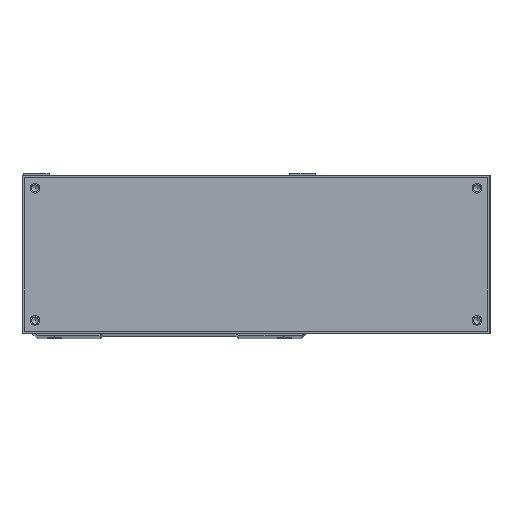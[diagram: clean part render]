
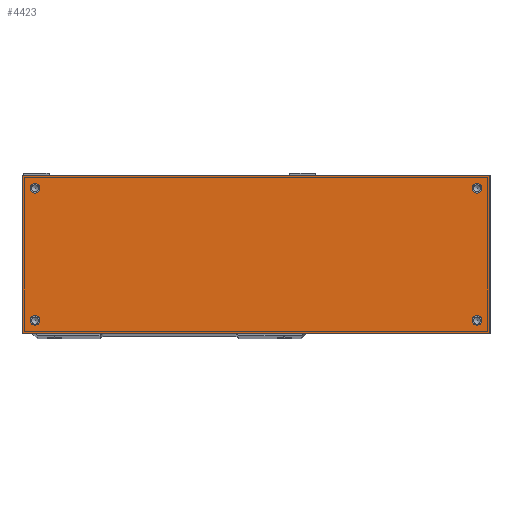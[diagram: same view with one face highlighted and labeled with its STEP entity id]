
A CAD part, top view. The second image highlights one B-rep face of the part: STEP entity #4423.
In plain terms, the highlighted planar face has unit normal (0, 0, 1).
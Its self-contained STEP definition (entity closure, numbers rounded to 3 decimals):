
#1196=LINE('',#23815,#2265);
#1219=LINE('',#23853,#2288);
#1417=LINE('',#25106,#2486);
#1423=LINE('',#25128,#2492);
#2265=VECTOR('',#18484,1.);
#2288=VECTOR('',#18511,1.);
#2486=VECTOR('',#19301,1.);
#2492=VECTOR('',#19323,1.);
#3252=PLANE('',#16706);
#4423=ADVANCED_FACE('8',(#5289,#5290,#5291,#5292,#5293),#3252,.F.);
#5289=FACE_BOUND('',#6467,.T.);
#5290=FACE_BOUND('',#6468,.T.);
#5291=FACE_BOUND('',#6469,.T.);
#5292=FACE_BOUND('',#6470,.T.);
#5293=FACE_BOUND('',#6471,.T.);
#6467=EDGE_LOOP('',(#9953));
#6468=EDGE_LOOP('',(#9954));
#6469=EDGE_LOOP('',(#9955));
#6470=EDGE_LOOP('',(#9956));
#6471=EDGE_LOOP('',(#9957,#9958,#9959,#9960));
#9953=ORIENTED_EDGE('',*,*,#14130,.F.);
#9954=ORIENTED_EDGE('',*,*,#14132,.F.);
#9955=ORIENTED_EDGE('',*,*,#14134,.F.);
#9956=ORIENTED_EDGE('',*,*,#14136,.F.);
#9957=ORIENTED_EDGE('',*,*,#13636,.F.);
#9958=ORIENTED_EDGE('',*,*,#13648,.F.);
#9959=ORIENTED_EDGE('',*,*,#13242,.F.);
#9960=ORIENTED_EDGE('',*,*,#13219,.F.);
#11550=VERTEX_POINT('',#23814);
#11551=VERTEX_POINT('',#23816);
#11564=VERTEX_POINT('',#23854);
#11842=VERTEX_POINT('',#25105);
#12155=VERTEX_POINT('',#28012);
#12157=VERTEX_POINT('',#28017);
#12159=VERTEX_POINT('',#28022);
#12161=VERTEX_POINT('',#28027);
#13219=EDGE_CURVE('',#11550,#11551,#1196,.T.);
#13242=EDGE_CURVE('',#11551,#11564,#1219,.T.);
#13636=EDGE_CURVE('',#11842,#11550,#1417,.T.);
#13648=EDGE_CURVE('',#11564,#11842,#1423,.T.);
#14130=EDGE_CURVE('',#12155,#12155,#15241,.T.);
#14132=EDGE_CURVE('',#12157,#12157,#15243,.T.);
#14134=EDGE_CURVE('',#12159,#12159,#15245,.T.);
#14136=EDGE_CURVE('',#12161,#12161,#15247,.T.);
#15241=CIRCLE('',#16695,2.25);
#15243=CIRCLE('',#16698,2.25);
#15245=CIRCLE('',#16701,2.25);
#15247=CIRCLE('',#16704,2.25);
#16695=AXIS2_PLACEMENT_3D('',#28011,#20482,#20483);
#16698=AXIS2_PLACEMENT_3D('',#28016,#20488,#20489);
#16701=AXIS2_PLACEMENT_3D('',#28021,#20494,#20495);
#16704=AXIS2_PLACEMENT_3D('',#28026,#20500,#20501);
#16706=AXIS2_PLACEMENT_3D('',#28029,#20504,#20505);
#18484=DIRECTION('',(-1.,0.,0.));
#18511=DIRECTION('',(0.,1.,0.));
#19301=DIRECTION('',(0.,-1.,0.));
#19323=DIRECTION('',(1.,0.,0.));
#20482=DIRECTION('',(0.,0.,1.));
#20483=DIRECTION('',(-1.,0.,0.));
#20488=DIRECTION('',(0.,0.,1.));
#20489=DIRECTION('',(1.,0.,0.));
#20494=DIRECTION('',(0.,0.,1.));
#20495=DIRECTION('',(-1.,0.,0.));
#20500=DIRECTION('',(0.,0.,1.));
#20501=DIRECTION('',(1.,0.,0.));
#20504=DIRECTION('',(0.,0.,-1.));
#20505=DIRECTION('',(1.,0.,0.));
#23814=CARTESIAN_POINT('',(148.,0.,193.));
#23815=CARTESIAN_POINT('',(148.,0.,193.));
#23816=CARTESIAN_POINT('',(-68.,0.,193.));
#23853=CARTESIAN_POINT('',(-68.,73.,193.));
#23854=CARTESIAN_POINT('',(-68.,73.,193.));
#25105=CARTESIAN_POINT('',(148.,73.,193.));
#25106=CARTESIAN_POINT('',(148.,73.,193.));
#25128=CARTESIAN_POINT('',(148.,73.,193.));
#28011=CARTESIAN_POINT('',(-62.,6.,193.));
#28012=CARTESIAN_POINT('',(-64.25,6.,193.));
#28016=CARTESIAN_POINT('',(142.,6.,193.));
#28017=CARTESIAN_POINT('',(144.25,6.,193.));
#28021=CARTESIAN_POINT('',(142.,67.,193.));
#28022=CARTESIAN_POINT('',(139.75,67.,193.));
#28026=CARTESIAN_POINT('',(-62.,67.,193.));
#28027=CARTESIAN_POINT('',(-59.75,67.,193.));
#28029=CARTESIAN_POINT('',(40.,36.5,193.));
